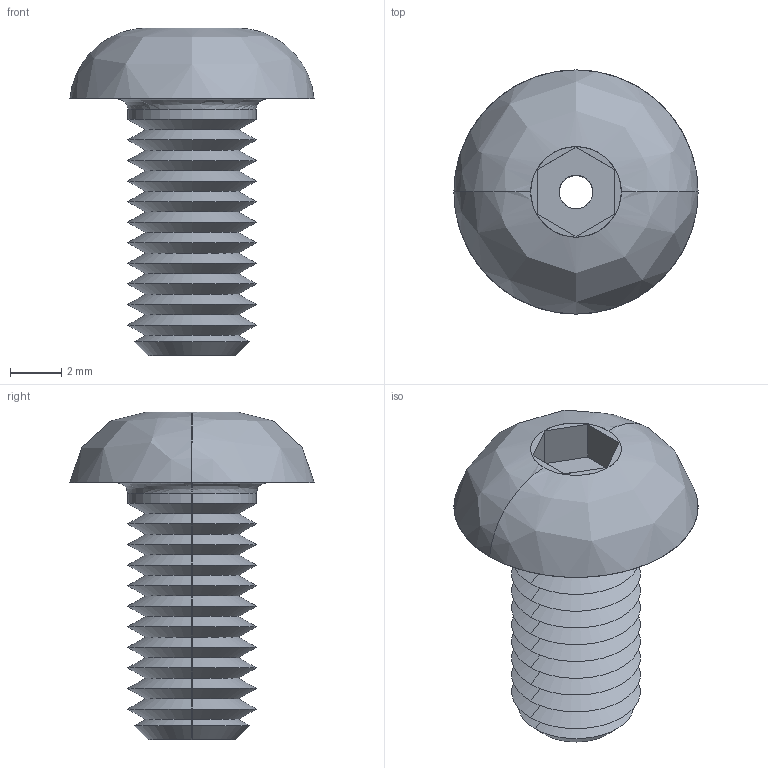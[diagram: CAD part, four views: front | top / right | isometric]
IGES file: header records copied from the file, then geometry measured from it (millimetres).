
Start section: SolidWorks IGES file using analytic representation for surfaces
Global section: file name: C:\Users\liam_\OneDrive\Documents\WORK\Work for WixRoyd\Job Files\J-00019 - Matt Davis CAD Checking\04. CAD Drawings\automotion20190605\P0094_v2\P0094_v2_20190712_IGES\P0094.050-010-A2.igs; native system: SolidWorks 2017; preprocessor: SolidWorks 2017; author: liam_; date: 190712.175340; units: millimetre
Bounding box: 9.5 x 9.5 x 12.75 mm (x, y, z)
Surface area: 483.8 mm2 (no closed solid volume)
Topology: 0 solids, 0 shells, 64 faces, 412 edges, 412 vertices
Faces by surface type: revolution 50, bspline 14
